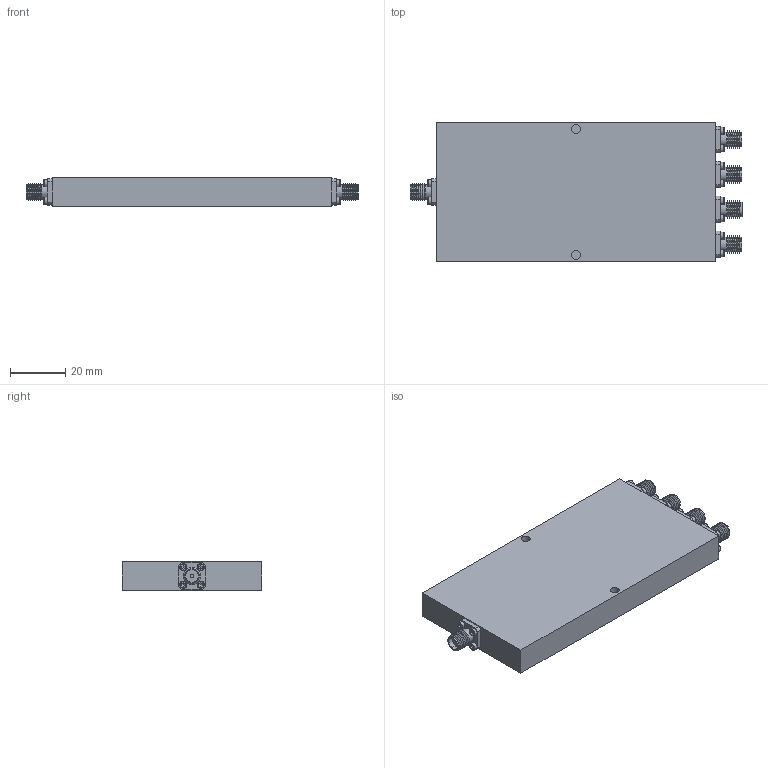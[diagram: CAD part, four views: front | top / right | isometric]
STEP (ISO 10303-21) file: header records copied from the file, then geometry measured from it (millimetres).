
FILE_DESCRIPTION(/* description */ ('Unknown'),/* implementation_level */ '2;1');
FILE_NAME(/* name */ 'DETI_MICROWAVE_4-WAY_POWER_DIVIDER_011212',/* time_stamp */ '2021-06-25T14:53:17+02:00',/* author */ ('ALG'),/* organization */ ('DETI'),/* preprocessor_version */ 'ST-DEVELOPER v16.7',/* originating_system */ 'Solid Edge',/* authorisation */ 'Unknown');
FILE_SCHEMA (('AUTOMOTIVE_DESIGN {1 0 10303 214 3 1 1}'));
Length unit declared in the file: millimetre
Products named in the file (1): DI-4-8-S2
Bounding box: 120.6 x 50.8 x 10.29 mm (x, y, z)
Volume: 54437.2 mm3; surface area: 16309.3 mm2
Topology: 1 solids, 46 shells, 554 faces, 1229 edges, 796 vertices
Faces by surface type: plane 265, cylinder 139, cone 130, torus 20
Full cylindrical faces by diameter (mm): 1.1 x5, 1.221 x20, 1.27 x10, 1.4 x20, 1.8 x20, 2.6 x20, 3.2 x4, 4.1 x5, 4.6 x5, 5.3 x10
Entity records: 17049 total; most frequent: CARTESIAN_POINT 2561, DIRECTION 2188, ORIENTED_EDGE 1670, FACE_BOUND 942, AXIS2_PLACEMENT_3D 928, EDGE_LOOP 902, EDGE_CURVE 835, VERTEX_POINT 711
